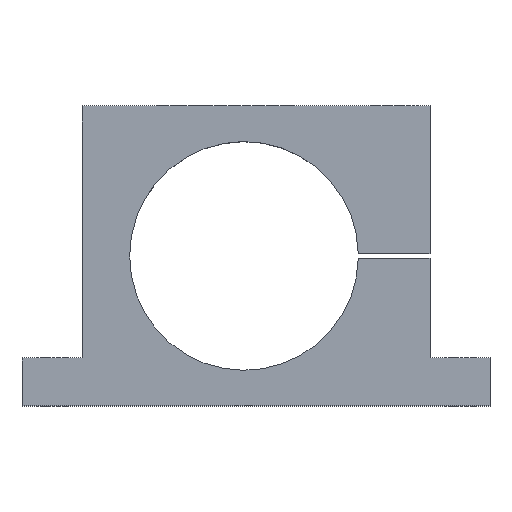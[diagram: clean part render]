
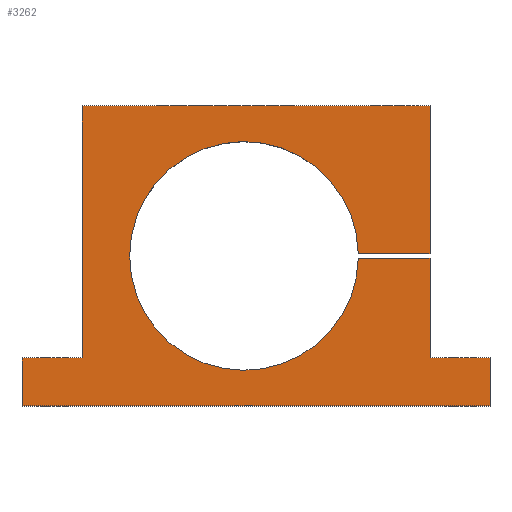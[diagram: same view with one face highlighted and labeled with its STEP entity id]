
A CAD part, top view. The second image highlights one B-rep face of the part: STEP entity #3262.
In plain terms, the highlighted planar face has unit normal (0, 0, 1).
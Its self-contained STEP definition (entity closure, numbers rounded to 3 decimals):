
#40=CIRCLE('',#3384,47.65);
#474=FACE_OUTER_BOUND('',#671,.T.);
#671=EDGE_LOOP('',(#2989,#2990,#2991,#2992,#2993,#2994,#2995,#2996,#2997,
#2998,#2999,#3000));
#929=LINE('',#5794,#1225);
#950=LINE('',#5880,#1246);
#952=LINE('',#5884,#1248);
#954=LINE('',#5888,#1250);
#956=LINE('',#5892,#1252);
#958=LINE('',#5896,#1254);
#960=LINE('',#5900,#1256);
#962=LINE('',#5904,#1258);
#964=LINE('',#5907,#1260);
#965=LINE('',#5911,#1261);
#967=LINE('',#5914,#1263);
#1225=VECTOR('',#3796,10.);
#1246=VECTOR('',#3883,10.);
#1248=VECTOR('',#3887,10.);
#1250=VECTOR('',#3891,10.);
#1252=VECTOR('',#3895,10.);
#1254=VECTOR('',#3899,10.);
#1256=VECTOR('',#3903,10.);
#1258=VECTOR('',#3907,10.);
#1260=VECTOR('',#3911,10.);
#1261=VECTOR('',#3916,10.);
#1263=VECTOR('',#3920,10.);
#1541=VERTEX_POINT('',#5791);
#1542=VERTEX_POINT('',#5793);
#1572=VERTEX_POINT('',#5873);
#1573=VERTEX_POINT('',#5875);
#1574=VERTEX_POINT('',#5879);
#1575=VERTEX_POINT('',#5883);
#1576=VERTEX_POINT('',#5887);
#1577=VERTEX_POINT('',#5891);
#1578=VERTEX_POINT('',#5895);
#1579=VERTEX_POINT('',#5899);
#1580=VERTEX_POINT('',#5903);
#1581=VERTEX_POINT('',#5910);
#1997=EDGE_CURVE('',#1542,#1541,#929,.T.);
#2035=EDGE_CURVE('',#1573,#1572,#40,.T.);
#2037=EDGE_CURVE('',#1574,#1573,#950,.T.);
#2039=EDGE_CURVE('',#1575,#1574,#952,.T.);
#2041=EDGE_CURVE('',#1576,#1575,#954,.T.);
#2043=EDGE_CURVE('',#1577,#1576,#956,.T.);
#2045=EDGE_CURVE('',#1578,#1577,#958,.T.);
#2047=EDGE_CURVE('',#1579,#1578,#960,.T.);
#2049=EDGE_CURVE('',#1580,#1579,#962,.T.);
#2051=EDGE_CURVE('',#1541,#1580,#964,.T.);
#2052=EDGE_CURVE('',#1581,#1542,#965,.T.);
#2054=EDGE_CURVE('',#1572,#1581,#967,.T.);
#2989=ORIENTED_EDGE('',*,*,#2054,.T.);
#2990=ORIENTED_EDGE('',*,*,#2052,.T.);
#2991=ORIENTED_EDGE('',*,*,#1997,.T.);
#2992=ORIENTED_EDGE('',*,*,#2051,.T.);
#2993=ORIENTED_EDGE('',*,*,#2049,.T.);
#2994=ORIENTED_EDGE('',*,*,#2047,.T.);
#2995=ORIENTED_EDGE('',*,*,#2045,.T.);
#2996=ORIENTED_EDGE('',*,*,#2043,.T.);
#2997=ORIENTED_EDGE('',*,*,#2041,.T.);
#2998=ORIENTED_EDGE('',*,*,#2039,.T.);
#2999=ORIENTED_EDGE('',*,*,#2037,.T.);
#3000=ORIENTED_EDGE('',*,*,#2035,.T.);
#3088=PLANE('',#3396);
#3262=ADVANCED_FACE('',(#474),#3088,.T.);
#3384=AXIS2_PLACEMENT_3D('',#5876,#3878,#3879);
#3396=AXIS2_PLACEMENT_3D('',#5915,#3921,#3922);
#3796=DIRECTION('',(-1.,0.,0.));
#3878=DIRECTION('center_axis',(0.,0.,-1.));
#3879=DIRECTION('ref_axis',(-1.,-0.021,0.));
#3883=DIRECTION('',(-1.,0.,0.));
#3887=DIRECTION('',(0.,1.,0.));
#3891=DIRECTION('',(-1.,0.,0.));
#3895=DIRECTION('',(0.,1.,0.));
#3899=DIRECTION('',(1.,0.,0.));
#3903=DIRECTION('',(0.,-1.,0.));
#3907=DIRECTION('',(-1.,0.,0.));
#3911=DIRECTION('',(0.,-1.,0.));
#3916=DIRECTION('',(0.,1.,0.));
#3920=DIRECTION('',(1.,0.,0.));
#3921=DIRECTION('center_axis',(0.,0.,1.));
#3922=DIRECTION('ref_axis',(1.,0.,0.));
#5791=CARTESIAN_POINT('',(25.,125.,15.));
#5793=CARTESIAN_POINT('',(170.,125.,15.));
#5794=CARTESIAN_POINT('',(170.,125.,15.));
#5873=CARTESIAN_POINT('',(140.14,63.5,15.));
#5875=CARTESIAN_POINT('',(140.14,61.5,15.));
#5876=CARTESIAN_POINT('Origin',(92.5,62.5,15.));
#5879=CARTESIAN_POINT('',(170.,61.5,15.));
#5880=CARTESIAN_POINT('',(170.,61.5,15.));
#5883=CARTESIAN_POINT('',(170.,20.,15.));
#5884=CARTESIAN_POINT('',(170.,20.,15.));
#5887=CARTESIAN_POINT('',(195.,20.,15.));
#5888=CARTESIAN_POINT('',(195.,20.,15.));
#5891=CARTESIAN_POINT('',(195.,0.,15.));
#5892=CARTESIAN_POINT('',(195.,0.,15.));
#5895=CARTESIAN_POINT('',(0.,0.,15.));
#5896=CARTESIAN_POINT('',(0.,0.,15.));
#5899=CARTESIAN_POINT('',(0.,20.,15.));
#5900=CARTESIAN_POINT('',(0.,20.,15.));
#5903=CARTESIAN_POINT('',(25.,20.,15.));
#5904=CARTESIAN_POINT('',(25.,20.,15.));
#5907=CARTESIAN_POINT('',(25.,125.,15.));
#5910=CARTESIAN_POINT('',(170.,63.5,15.));
#5911=CARTESIAN_POINT('',(170.,63.5,15.));
#5914=CARTESIAN_POINT('',(140.14,63.5,15.));
#5915=CARTESIAN_POINT('Origin',(99.788,56.798,15.));
